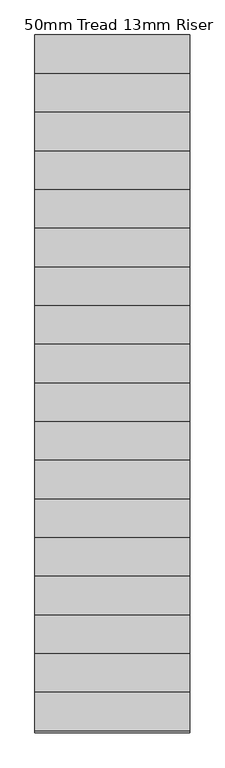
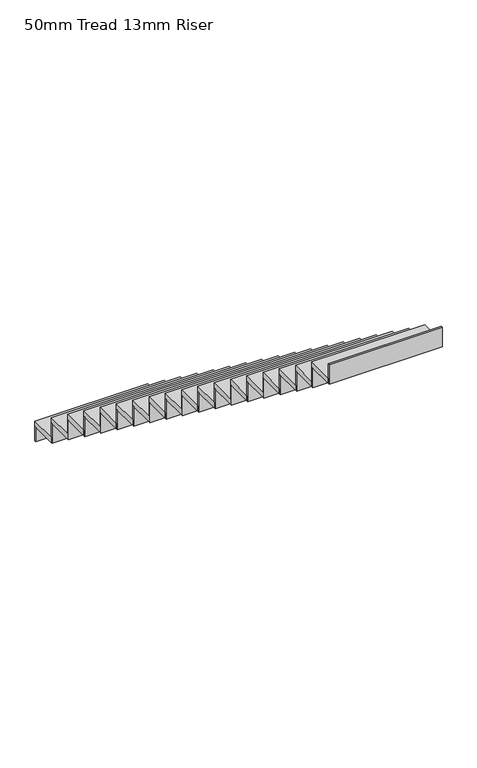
"""IFC4 building model written with IfcOpenShell, lengths in millimetres: stair flight geometry, 50mm Tread 13mm Riser."""

from ifc_helpers import new_model, si_unit, frame, origin, origin_with_axes, place, context, project, spatial, polyline, outline, extrude, source, transform, mapped, element, save


def stair_flight_50mm_tread_13mm_riser_1d24b435(model_context):
    return source(origin(), model_context, "Body", "SweptSolid", [
        extrude(outline(polyline([(-21940.4727721, 2149.8186943), (-21940.4727721, 2162.3186943), (-20940.4727721, 2162.3186943), (-20940.4727721, 2149.8186943), (-21940.4727721, 2149.8186943)])), origin_with_axes(), (0.0, 0.0, 1.0), 134.2105263),
        extrude(outline(polyline([(-20940.4727721, 1912.3186943), (-21940.4727721, 1912.3186943), (-21940.4727721, 2162.3186943), (-20940.4727721, 2162.3186943), (-20940.4727721, 1912.3186943)])), frame((0.0, 0.0, 134.2105263), z_axis=(0.0, 0.0, 1.0), x_axis=(1.0, 0.0, 0.0)), (0.0, 0.0, 1.0), 50.0),
        extrude(outline(polyline([(-21940.4727721, 1899.8186943), (-21940.4727721, 1912.3186943), (-20940.4727721, 1912.3186943), (-20940.4727721, 1899.8186943), (-21940.4727721, 1899.8186943)])), frame((0.0, 0.0, 134.2105263), z_axis=(0.0, 0.0, 1.0), x_axis=(1.0, 0.0, 0.0)), (0.0, 0.0, 1.0), 184.2105263),
        extrude(outline(polyline([(-20940.4727721, 1662.3186943), (-21940.4727721, 1662.3186943), (-21940.4727721, 1912.3186943), (-20940.4727721, 1912.3186943), (-20940.4727721, 1662.3186943)])), frame((0.0, 0.0, 318.4210526), z_axis=(0.0, 0.0, 1.0), x_axis=(1.0, 0.0, 0.0)), (0.0, 0.0, 1.0), 50.0),
        extrude(outline(polyline([(-21940.4727721, 1649.8186943), (-21940.4727721, 1662.3186943), (-20940.4727721, 1662.3186943), (-20940.4727721, 1649.8186943), (-21940.4727721, 1649.8186943)])), frame((0.0, 0.0, 318.4210526), z_axis=(0.0, 0.0, 1.0), x_axis=(1.0, 0.0, 0.0)), (0.0, 0.0, 1.0), 184.2105263),
        extrude(outline(polyline([(-20940.4727721, 1412.3186943), (-21940.4727721, 1412.3186943), (-21940.4727721, 1662.3186943), (-20940.4727721, 1662.3186943), (-20940.4727721, 1412.3186943)])), frame((0.0, 0.0, 502.6315789), z_axis=(0.0, 0.0, 1.0), x_axis=(1.0, 0.0, 0.0)), (0.0, 0.0, 1.0), 50.0),
        extrude(outline(polyline([(-21940.4727721, 1399.8186943), (-21940.4727721, 1412.3186943), (-20940.4727721, 1412.3186943), (-20940.4727721, 1399.8186943), (-21940.4727721, 1399.8186943)])), frame((0.0, 0.0, 502.6315789), z_axis=(0.0, 0.0, 1.0), x_axis=(1.0, 0.0, 0.0)), (0.0, 0.0, 1.0), 184.2105263),
        extrude(outline(polyline([(-20940.4727721, 1162.3186943), (-21940.4727721, 1162.3186943), (-21940.4727721, 1412.3186943), (-20940.4727721, 1412.3186943), (-20940.4727721, 1162.3186943)])), frame((0.0, 0.0, 686.8421053), z_axis=(0.0, 0.0, 1.0), x_axis=(1.0, 0.0, 0.0)), (0.0, 0.0, 1.0), 50.0),
        extrude(outline(polyline([(-21940.4727721, 1149.8186943), (-21940.4727721, 1162.3186943), (-20940.4727721, 1162.3186943), (-20940.4727721, 1149.8186943), (-21940.4727721, 1149.8186943)])), frame((0.0, 0.0, 686.8421053), z_axis=(0.0, 0.0, 1.0), x_axis=(1.0, 0.0, 0.0)), (0.0, 0.0, 1.0), 184.2105263),
        extrude(outline(polyline([(-20940.4727721, 912.3186943), (-21940.4727721, 912.3186943), (-21940.4727721, 1162.3186943), (-20940.4727721, 1162.3186943), (-20940.4727721, 912.3186943)])), frame((0.0, 0.0, 871.0526316), z_axis=(0.0, 0.0, 1.0), x_axis=(1.0, 0.0, 0.0)), (0.0, 0.0, 1.0), 50.0),
        extrude(outline(polyline([(-21940.4727721, 899.8186943), (-21940.4727721, 912.3186943), (-20940.4727721, 912.3186943), (-20940.4727721, 899.8186943), (-21940.4727721, 899.8186943)])), frame((0.0, 0.0, 871.0526316), z_axis=(0.0, 0.0, 1.0), x_axis=(1.0, 0.0, 0.0)), (0.0, 0.0, 1.0), 184.2105263),
        extrude(outline(polyline([(-20940.4727721, 662.3186943), (-21940.4727721, 662.3186943), (-21940.4727721, 912.3186943), (-20940.4727721, 912.3186943), (-20940.4727721, 662.3186943)])), frame((0.0, 0.0, 1055.2631579), z_axis=(0.0, 0.0, 1.0), x_axis=(1.0, 0.0, 0.0)), (0.0, 0.0, 1.0), 50.0),
        extrude(outline(polyline([(-21940.4727721, 649.8186943), (-21940.4727721, 662.3186943), (-20940.4727721, 662.3186943), (-20940.4727721, 649.8186943), (-21940.4727721, 649.8186943)])), frame((0.0, 0.0, 1055.2631579), z_axis=(0.0, 0.0, 1.0), x_axis=(1.0, 0.0, 0.0)), (0.0, 0.0, 1.0), 184.2105263),
        extrude(outline(polyline([(-20940.4727721, 412.3186943), (-21940.4727721, 412.3186943), (-21940.4727721, 662.3186943), (-20940.4727721, 662.3186943), (-20940.4727721, 412.3186943)])), frame((0.0, 0.0, 1239.4736842), z_axis=(0.0, 0.0, 1.0), x_axis=(1.0, 0.0, 0.0)), (0.0, 0.0, 1.0), 50.0),
        extrude(outline(polyline([(-21940.4727721, 399.8186943), (-21940.4727721, 412.3186943), (-20940.4727721, 412.3186943), (-20940.4727721, 399.8186943), (-21940.4727721, 399.8186943)])), frame((0.0, 0.0, 1239.4736842), z_axis=(0.0, 0.0, 1.0), x_axis=(1.0, 0.0, 0.0)), (0.0, 0.0, 1.0), 184.2105263),
        extrude(outline(polyline([(-20940.4727721, 162.3186943), (-21940.4727721, 162.3186943), (-21940.4727721, 412.3186943), (-20940.4727721, 412.3186943), (-20940.4727721, 162.3186943)])), frame((0.0, 0.0, 1423.6842105), z_axis=(0.0, 0.0, 1.0), x_axis=(1.0, 0.0, 0.0)), (0.0, 0.0, 1.0), 50.0),
        extrude(outline(polyline([(-21940.4727721, 149.8186943), (-21940.4727721, 162.3186943), (-20940.4727721, 162.3186943), (-20940.4727721, 149.8186943), (-21940.4727721, 149.8186943)])), frame((0.0, 0.0, 1423.6842105), z_axis=(0.0, 0.0, 1.0), x_axis=(1.0, 0.0, 0.0)), (0.0, 0.0, 1.0), 184.2105263),
        extrude(outline(polyline([(-20940.4727721, -87.6813057), (-21940.4727721, -87.6813057), (-21940.4727721, 162.3186943), (-20940.4727721, 162.3186943), (-20940.4727721, -87.6813057)])), frame((0.0, 0.0, 1607.8947368), z_axis=(0.0, 0.0, 1.0), x_axis=(1.0, 0.0, 0.0)), (0.0, 0.0, 1.0), 50.0),
        extrude(outline(polyline([(-21940.4727721, -100.1813057), (-21940.4727721, -87.6813057), (-20940.4727721, -87.6813057), (-20940.4727721, -100.1813057), (-21940.4727721, -100.1813057)])), frame((0.0, 0.0, 1607.8947368), z_axis=(0.0, 0.0, 1.0), x_axis=(1.0, 0.0, 0.0)), (0.0, 0.0, 1.0), 184.2105263),
        extrude(outline(polyline([(-20940.4727721, -337.6813057), (-21940.4727721, -337.6813057), (-21940.4727721, -87.6813057), (-20940.4727721, -87.6813057), (-20940.4727721, -337.6813057)])), frame((0.0, 0.0, 1792.1052632), z_axis=(0.0, 0.0, 1.0), x_axis=(1.0, 0.0, 0.0)), (0.0, 0.0, 1.0), 50.0),
        extrude(outline(polyline([(-21940.4727721, -350.1813057), (-21940.4727721, -337.6813057), (-20940.4727721, -337.6813057), (-20940.4727721, -350.1813057), (-21940.4727721, -350.1813057)])), frame((0.0, 0.0, 1792.1052632), z_axis=(0.0, 0.0, 1.0), x_axis=(1.0, 0.0, 0.0)), (0.0, 0.0, 1.0), 184.2105263),
        extrude(outline(polyline([(-20940.4727721, -587.6813057), (-21940.4727721, -587.6813057), (-21940.4727721, -337.6813057), (-20940.4727721, -337.6813057), (-20940.4727721, -587.6813057)])), frame((0.0, 0.0, 1976.3157895), z_axis=(0.0, 0.0, 1.0), x_axis=(1.0, 0.0, 0.0)), (0.0, 0.0, 1.0), 50.0),
        extrude(outline(polyline([(-21940.4727721, -600.1813057), (-21940.4727721, -587.6813057), (-20940.4727721, -587.6813057), (-20940.4727721, -600.1813057), (-21940.4727721, -600.1813057)])), frame((0.0, 0.0, 1976.3157895), z_axis=(0.0, 0.0, 1.0), x_axis=(1.0, 0.0, 0.0)), (0.0, 0.0, 1.0), 184.2105263),
        extrude(outline(polyline([(-20940.4727721, -837.6813057), (-21940.4727721, -837.6813057), (-21940.4727721, -587.6813057), (-20940.4727721, -587.6813057), (-20940.4727721, -837.6813057)])), frame((0.0, 0.0, 2160.5263158), z_axis=(0.0, 0.0, 1.0), x_axis=(1.0, 0.0, 0.0)), (0.0, 0.0, 1.0), 50.0),
        extrude(outline(polyline([(-21940.4727721, -850.1813057), (-21940.4727721, -837.6813057), (-20940.4727721, -837.6813057), (-20940.4727721, -850.1813057), (-21940.4727721, -850.1813057)])), frame((0.0, 0.0, 2160.5263158), z_axis=(0.0, 0.0, 1.0), x_axis=(1.0, 0.0, 0.0)), (0.0, 0.0, 1.0), 184.2105263),
        extrude(outline(polyline([(-20940.4727721, -1087.6813057), (-21940.4727721, -1087.6813057), (-21940.4727721, -837.6813057), (-20940.4727721, -837.6813057), (-20940.4727721, -1087.6813057)])), frame((0.0, 0.0, 2344.7368421), z_axis=(0.0, 0.0, 1.0), x_axis=(1.0, 0.0, 0.0)), (0.0, 0.0, 1.0), 50.0),
        extrude(outline(polyline([(-21940.4727721, -1100.1813057), (-21940.4727721, -1087.6813057), (-20940.4727721, -1087.6813057), (-20940.4727721, -1100.1813057), (-21940.4727721, -1100.1813057)])), frame((0.0, 0.0, 2344.7368421), z_axis=(0.0, 0.0, 1.0), x_axis=(1.0, 0.0, 0.0)), (0.0, 0.0, 1.0), 184.2105263),
        extrude(outline(polyline([(-20940.4727721, -1337.6813057), (-21940.4727721, -1337.6813057), (-21940.4727721, -1087.6813057), (-20940.4727721, -1087.6813057), (-20940.4727721, -1337.6813057)])), frame((0.0, 0.0, 2528.9473684), z_axis=(0.0, 0.0, 1.0), x_axis=(1.0, 0.0, 0.0)), (0.0, 0.0, 1.0), 50.0),
        extrude(outline(polyline([(-21940.4727721, -1350.1813057), (-21940.4727721, -1337.6813057), (-20940.4727721, -1337.6813057), (-20940.4727721, -1350.1813057), (-21940.4727721, -1350.1813057)])), frame((0.0, 0.0, 2528.9473684), z_axis=(0.0, 0.0, 1.0), x_axis=(1.0, 0.0, 0.0)), (0.0, 0.0, 1.0), 184.2105263),
        extrude(outline(polyline([(-20940.4727721, -1587.6813057), (-21940.4727721, -1587.6813057), (-21940.4727721, -1337.6813057), (-20940.4727721, -1337.6813057), (-20940.4727721, -1587.6813057)])), frame((0.0, 0.0, 2713.1578947), z_axis=(0.0, 0.0, 1.0), x_axis=(1.0, 0.0, 0.0)), (0.0, 0.0, 1.0), 50.0),
        extrude(outline(polyline([(-21940.4727721, -1600.1813057), (-21940.4727721, -1587.6813057), (-20940.4727721, -1587.6813057), (-20940.4727721, -1600.1813057), (-21940.4727721, -1600.1813057)])), frame((0.0, 0.0, 2713.1578947), z_axis=(0.0, 0.0, 1.0), x_axis=(1.0, 0.0, 0.0)), (0.0, 0.0, 1.0), 184.2105263),
        extrude(outline(polyline([(-20940.4727721, -1837.6813057), (-21940.4727721, -1837.6813057), (-21940.4727721, -1587.6813057), (-20940.4727721, -1587.6813057), (-20940.4727721, -1837.6813057)])), frame((0.0, 0.0, 2897.3684211), z_axis=(0.0, 0.0, 1.0), x_axis=(1.0, 0.0, 0.0)), (0.0, 0.0, 1.0), 50.0),
        extrude(outline(polyline([(-21940.4727721, -1850.1813057), (-21940.4727721, -1837.6813057), (-20940.4727721, -1837.6813057), (-20940.4727721, -1850.1813057), (-21940.4727721, -1850.1813057)])), frame((0.0, 0.0, 2897.3684211), z_axis=(0.0, 0.0, 1.0), x_axis=(1.0, 0.0, 0.0)), (0.0, 0.0, 1.0), 184.2105263),
        extrude(outline(polyline([(-20940.4727721, -2087.6813057), (-21940.4727721, -2087.6813057), (-21940.4727721, -1837.6813057), (-20940.4727721, -1837.6813057), (-20940.4727721, -2087.6813057)])), frame((0.0, 0.0, 3081.5789474), z_axis=(0.0, 0.0, 1.0), x_axis=(1.0, 0.0, 0.0)), (0.0, 0.0, 1.0), 50.0),
        extrude(outline(polyline([(-21940.4727721, -2100.1813057), (-21940.4727721, -2087.6813057), (-20940.4727721, -2087.6813057), (-20940.4727721, -2100.1813057), (-21940.4727721, -2100.1813057)])), frame((0.0, 0.0, 3081.5789474), z_axis=(0.0, 0.0, 1.0), x_axis=(1.0, 0.0, 0.0)), (0.0, 0.0, 1.0), 184.2105263),
        extrude(outline(polyline([(-21940.4727721, -2350.1813057), (-21940.4727721, -2337.6813057), (-20940.4727721, -2337.6813057), (-20940.4727721, -2350.1813057), (-21940.4727721, -2350.1813057)])), frame((0.0, 0.0, 3265.7894737), z_axis=(0.0, 0.0, 1.0), x_axis=(1.0, 0.0, 0.0)), (0.0, 0.0, 1.0), 184.2105263),
        extrude(outline(polyline([(-20940.4727721, -2337.6813057), (-21940.4727721, -2337.6813057), (-21940.4727721, -2087.6813057), (-20940.4727721, -2087.6813057), (-20940.4727721, -2337.6813057)])), frame((0.0, 0.0, 3265.7894737), z_axis=(0.0, 0.0, 1.0), x_axis=(1.0, 0.0, 0.0)), (0.0, 0.0, 1.0), 50.0),
    ])


if __name__ == "__main__":
    model = new_model("IFC4")
    model_context = context("Model", 3, world=origin())
    ifc_project = project(units=[si_unit("LENGTHUNIT", "METRE", prefix="MILLI")], contexts=[model_context])
    site = spatial("IfcSite", under=ifc_project)
    building = spatial("IfcBuilding", under=site)
    placement = place(None, origin())
    stair_flight_50mm_tread_13mm_riser_shape = stair_flight_50mm_tread_13mm_riser_1d24b435(model_context)
    element("IfcStairFlight", 1, ObjectType="50mm Tread 13mm Riser", at=placement, inside=building, context=model_context, shape_type="MappedRepresentation", body=[
        mapped(stair_flight_50mm_tread_13mm_riser_shape, transform((0.0, 0.0, 0.0), x_axis=(1.0, 0.0, 0.0), y_axis=(0.0, 1.0, 0.0), z_axis=(0.0, 0.0, 1.0))),
    ])
    save(model, "model.ifc")
